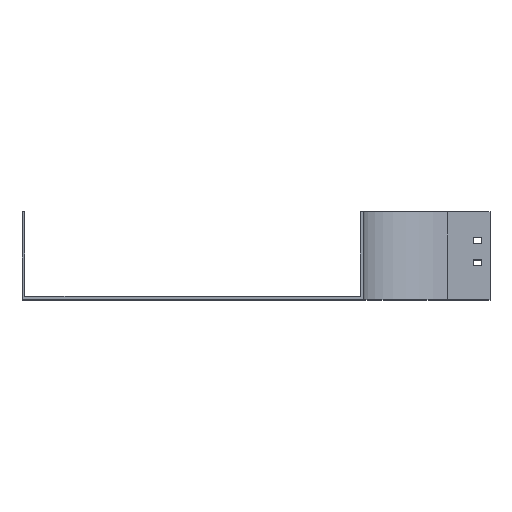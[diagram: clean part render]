
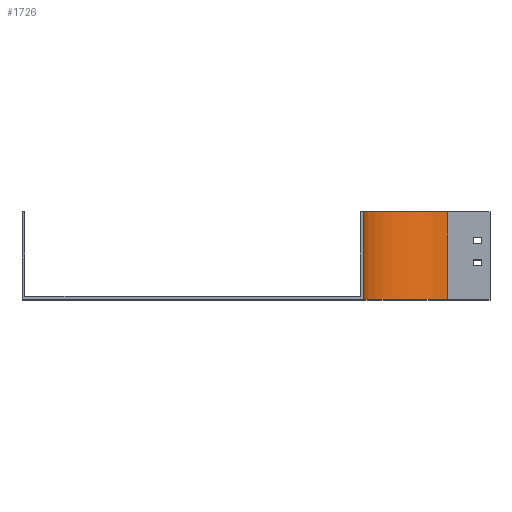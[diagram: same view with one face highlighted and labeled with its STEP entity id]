
A CAD part, top view. The second image highlights one B-rep face of the part: STEP entity #1726.
In plain terms, the highlighted cylindrical face has radius 100 mm (diameter 200 mm), a partial arc.
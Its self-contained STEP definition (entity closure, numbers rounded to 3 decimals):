
#38 = EDGE_CURVE ( 'NONE', #2472, #259, #401, .T. ) ;
#47 = CIRCLE ( 'NONE', #270, 100. ) ;
#242 = CARTESIAN_POINT ( 'NONE',  ( 0., 104., -100. ) ) ;
#259 = VERTEX_POINT ( 'NONE', #271 ) ;
#270 = AXIS2_PLACEMENT_3D ( 'NONE', #2252, #784, #1222 ) ;
#271 = CARTESIAN_POINT ( 'NONE',  ( -100., 0., 0. ) ) ;
#401 = LINE ( 'NONE', #2332, #2536 ) ;
#461 = FACE_OUTER_BOUND ( 'NONE', #1214, .T. ) ;
#475 = DIRECTION ( 'NONE',  ( 0., 0., -1. ) ) ;
#479 = CARTESIAN_POINT ( 'NONE',  ( 0., 0., 0. ) ) ;
#502 = DIRECTION ( 'NONE',  ( 0., -1., 0. ) ) ;
#678 = VERTEX_POINT ( 'NONE', #2701 ) ;
#784 = DIRECTION ( 'NONE',  ( 0., -1., 0. ) ) ;
#915 = DIRECTION ( 'NONE',  ( 0., -1., 0. ) ) ;
#995 = ORIENTED_EDGE ( 'NONE', *, *, #38, .T. ) ;
#1004 = AXIS2_PLACEMENT_3D ( 'NONE', #479, #915, #1074 ) ;
#1042 = DIRECTION ( 'NONE',  ( 0., -1., 0. ) ) ;
#1060 = ORIENTED_EDGE ( 'NONE', *, *, #1179, .F. ) ;
#1074 = DIRECTION ( 'NONE',  ( 0., 0., -1. ) ) ;
#1100 = CARTESIAN_POINT ( 'NONE',  ( 0., 104., 0. ) ) ;
#1112 = CYLINDRICAL_SURFACE ( 'NONE', #1572, 100. ) ;
#1172 = CARTESIAN_POINT ( 'NONE',  ( 0., 104., -100. ) ) ;
#1179 = EDGE_CURVE ( 'NONE', #2472, #2495, #47, .T. ) ;
#1183 = CIRCLE ( 'NONE', #1004, 100. ) ;
#1214 = EDGE_LOOP ( 'NONE', ( #1804, #2373, #1060, #995 ) ) ;
#1222 = DIRECTION ( 'NONE',  ( 0., 0., -1. ) ) ;
#1379 = EDGE_CURVE ( 'NONE', #2495, #678, #1502, .T. ) ;
#1502 = LINE ( 'NONE', #242, #1961 ) ;
#1572 = AXIS2_PLACEMENT_3D ( 'NONE', #1100, #502, #475 ) ;
#1726 = ADVANCED_FACE ( 'NONE', ( #461 ), #1112, .F. ) ;
#1804 = ORIENTED_EDGE ( 'NONE', *, *, #1957, .T. ) ;
#1942 = CARTESIAN_POINT ( 'NONE',  ( -100., 104., 0. ) ) ;
#1955 = DIRECTION ( 'NONE',  ( 0., -1., 0. ) ) ;
#1957 = EDGE_CURVE ( 'NONE', #259, #678, #1183, .T. ) ;
#1961 = VECTOR ( 'NONE', #1955, 1000. ) ;
#2252 = CARTESIAN_POINT ( 'NONE',  ( 0., 104., 0. ) ) ;
#2332 = CARTESIAN_POINT ( 'NONE',  ( -100., 104., 0. ) ) ;
#2373 = ORIENTED_EDGE ( 'NONE', *, *, #1379, .F. ) ;
#2472 = VERTEX_POINT ( 'NONE', #1942 ) ;
#2495 = VERTEX_POINT ( 'NONE', #1172 ) ;
#2536 = VECTOR ( 'NONE', #1042, 1000. ) ;
#2701 = CARTESIAN_POINT ( 'NONE',  ( 0., 0., -100. ) ) ;
